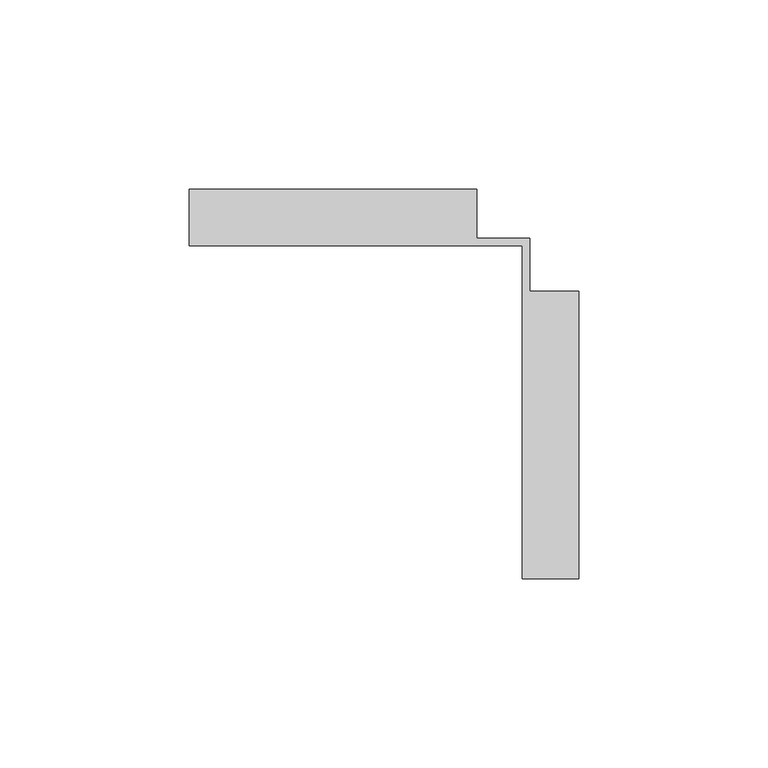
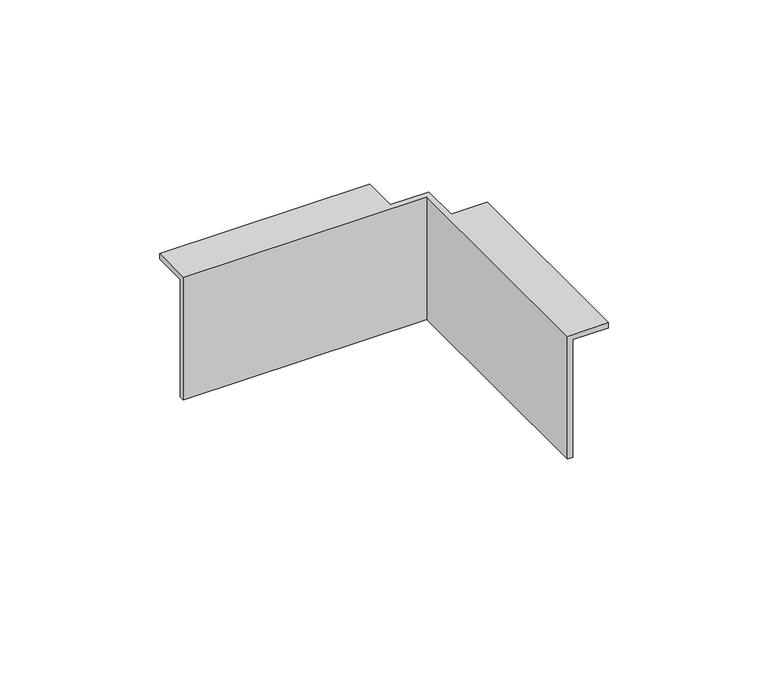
"""IFC4 building model written with IfcOpenShell, lengths in millimetres: cable carrier fitting geometry, BAKS_LD_CONN_Angle coupler bendable_LKU : LKUC_H45."""

import ifcopenshell
import ifcopenshell.guid

model = None  # the IFC model being written
_history = None  # IfcOwnerHistory: only IFC2X3 demands one
_inside = {}  # id of a spatial element -> (the spatial element, [elements in it])
_under = {}  # id of a project, library or spatial element -> (it, [spatial elements below it])
_declared = {}  # id of a project -> (the project, [libraries it declares])
_typed = {}  # id of a type object -> (the type object, [elements of that type])
_made_of = {}  # id of a material, layer set ... -> (it, [elements and type objects made of it])


def new_model(schema):
    """Start an empty IFC model of exactly this schema.

    Asked for "IFC4X3", IfcOpenShell would pick the latest addendum, in which some entities
    have other attributes; the version numbers below select the first issue.
    IFC2X3 requires an IfcOwnerHistory on every rooted entity: one is made here for all.
    """
    global model, _history
    if schema == "IFC4X3":
        model = ifcopenshell.file(schema_version=(4, 3, 0, 0))
    else:
        model = ifcopenshell.file(schema=schema)
    _inside.clear()
    _under.clear()
    _declared.clear()
    _typed.clear()
    _made_of.clear()
    _history = None
    if model.schema == "IFC2X3":
        org = make("IfcOrganization", Name="unknown")
        user = make(
            "IfcPersonAndOrganization",
            ThePerson=make("IfcPerson", FamilyName="unknown"),
            TheOrganization=org,
        )
        app = make(
            "IfcApplication",
            ApplicationDeveloper=org,
            Version="unknown",
            ApplicationFullName="unknown",
            ApplicationIdentifier="unknown",
        )
        _history = make(
            "IfcOwnerHistory",
            OwningUser=user,
            OwningApplication=app,
            ChangeAction="ADDED",
            CreationDate=0,
        )
    return model


def make(cls, **values):
    """One entity of the class cls with the attributes given. An attribute that is None is left unset."""
    return model.create_entity(
        cls, **{name: value for name, value in values.items() if value is not None}
    )


def rooted(cls, **values):
    """An entity with a GlobalId (a new one), such as an element, a storey or a relation."""
    return make(cls, GlobalId=ifcopenshell.guid.new(), OwnerHistory=_history, **values)


def si_unit(unit_type, name, prefix=None):
    """IfcSIUnit, for example si_unit("LENGTHUNIT", "METRE", prefix="MILLI")."""
    return make("IfcSIUnit", UnitType=unit_type, Prefix=prefix, Name=name)


def assignment(units):
    """IfcUnitAssignment: the units of a project."""
    return None if units is None else make("IfcUnitAssignment", Units=units)


def point(xyz):
    """IfcCartesianPoint."""
    return None if xyz is None else make("IfcCartesianPoint", Coordinates=xyz)


def direction(xyz):
    """IfcDirection."""
    return None if xyz is None else make("IfcDirection", DirectionRatios=xyz)


def frame(location, z_axis=None, x_axis=None):
    """IfcAxis2Placement3D, a coordinate frame: its origin and axes. An axis left out is left unset."""
    return make(
        "IfcAxis2Placement3D",
        Location=point(location),
        Axis=direction(z_axis),
        RefDirection=direction(x_axis),
    )


def origin():
    """The frame at (0, 0, 0) with its axes left unset."""
    return frame((0.0, 0.0, 0.0))


def place(relative_to, where):
    """IfcLocalPlacement: puts the frame where relative to a parent placement (None: the world)."""
    return make(
        "IfcLocalPlacement", PlacementRelTo=relative_to, RelativePlacement=where
    )


def context(
    kind, dimensions, precision=None, world=None, true_north=None, identifier=None
):
    """IfcGeometricRepresentationContext, for example the 3D "Model" context."""
    return make(
        "IfcGeometricRepresentationContext",
        ContextIdentifier=identifier,
        ContextType=kind,
        CoordinateSpaceDimension=dimensions,
        Precision=precision,
        WorldCoordinateSystem=world,
        TrueNorth=true_north,
    )


def project(units=None, contexts=None):
    """IfcProject with its units and contexts."""
    return rooted(
        "IfcProject",
        Name="project",
        RepresentationContexts=contexts,
        UnitsInContext=assignment(units),
    )


def spatial(cls, under=None, at=None, **own):
    """A site, building, storey or space (cls), placed at a placement, below another one or the project."""
    s = rooted(cls, ObjectPlacement=at, **own)
    if under is not None:
        _under.setdefault(under.id(), (under, []))[1].append(s)
    return s


def faces_of(points, faces, orient=None, outer=None):
    """IfcFace entities. A face is a list of loops; a loop is a list of indices into points, from 0.

    orient and outer hold one flag for each loop. By default every Orientation is true, the
    first loop of a face is its IfcFaceOuterBound and the others are IfcFaceBound.
    """
    made = []
    for i, loops in enumerate(faces):
        bounds = []
        for j, loop in enumerate(loops):
            is_outer = j == 0 if outer is None else outer[i][j]
            bounds.append(
                make(
                    "IfcFaceOuterBound" if is_outer else "IfcFaceBound",
                    Bound=make("IfcPolyLoop", Polygon=[points[k] for k in loop]),
                    Orientation=True if orient is None else orient[i][j],
                )
            )
        made.append(make("IfcFace", Bounds=bounds))
    return made


def faceted_brep(points, faces, orient=None, outer=None, voids=None):
    """IfcFacetedBrep: a solid bounded by flat faces; with voids (closed shells), ...WithVoids."""
    shared = [point(p) for p in points]
    hull = make("IfcClosedShell", CfsFaces=faces_of(shared, faces, orient, outer))
    if voids is None:
        return make("IfcFacetedBrep", Outer=hull)
    return make(
        "IfcFacetedBrepWithVoids",
        Outer=hull,
        Voids=[
            make(cls, CfsFaces=faces_of(shared, fs, o, b)) for cls, fs, o, b in voids
        ],
    )


def shape(context_of_items, identifier, shape_type, items):
    """IfcShapeRepresentation: the items that make up one representation, for example the "Body"."""
    return make(
        "IfcShapeRepresentation",
        ContextOfItems=context_of_items,
        RepresentationIdentifier=identifier,
        RepresentationType=shape_type,
        Items=items,
    )


def source(mapping_origin, context_of_items, identifier, shape_type, items):
    """IfcRepresentationMap: a shape defined once, which mapped items show again and again."""
    return make(
        "IfcRepresentationMap",
        MappingOrigin=mapping_origin,
        MappedRepresentation=shape(context_of_items, identifier, shape_type, items),
    )


def transform(
    local_origin,
    x_axis=None,
    y_axis=None,
    z_axis=None,
    scale=None,
    scale2=None,
    scale3=None,
    uniform=True,
):
    """IfcCartesianTransformationOperator3D, or its non-uniform kind. x_axis, y_axis, z_axis: its Axis1, 2, 3."""
    if uniform:
        return make(
            "IfcCartesianTransformationOperator3D",
            Axis1=direction(x_axis),
            Axis2=direction(y_axis),
            LocalOrigin=point(local_origin),
            Scale=scale,
            Axis3=direction(z_axis),
        )
    return make(
        "IfcCartesianTransformationOperator3DnonUniform",
        Axis1=direction(x_axis),
        Axis2=direction(y_axis),
        LocalOrigin=point(local_origin),
        Scale=scale,
        Axis3=direction(z_axis),
        Scale2=scale2,
        Scale3=scale3,
    )


def mapped(mapping_source, mapping_target):
    """IfcMappedItem: shows the shape of a source again, moved by a transform."""
    return make(
        "IfcMappedItem", MappingSource=mapping_source, MappingTarget=mapping_target
    )


def made_of(thing, what):
    """Note that an element or type object is made of a material, layer set ...; save() writes the relation."""
    if what is not None:
        _made_of.setdefault(what.id(), (what, []))[1].append(thing)
    return thing


def element(
    cls,
    number,
    at=None,
    inside=None,
    cuts=None,
    type_object=None,
    material=None,
    context=None,
    identifier="Body",
    shape_type=None,
    held_by="IfcProductDefinitionShape",
    body=None,
    shapes=None,
    **own,
):
    """One element of the class cls, such as IfcWall. Its Tag is "e" and its number.

    at: its placement. inside: the storey or other place that contains it. cuts: it is an
    opening in that element (IfcRelVoidsElement). A single representation is given by context,
    identifier, shape_type and body (its items); several are given by shapes. held_by: the class
    of the entity that holds the representations. save() writes the other relations.
    """
    e = rooted(cls, Tag="e%d" % number, ObjectPlacement=at, **own)
    if body is not None:
        shapes = [shape(context, identifier, shape_type, body)]
    if shapes is not None:
        e.Representation = make(held_by, Representations=shapes)
    if inside is not None:
        _inside.setdefault(inside.id(), (inside, []))[1].append(e)
    if cuts is not None:
        rooted(
            "IfcRelVoidsElement", RelatingBuildingElement=cuts, RelatedOpeningElement=e
        )
    if type_object is not None:
        _typed.setdefault(type_object.id(), (type_object, []))[1].append(e)
    return made_of(e, material)


def aggregate(whole, parts):
    """IfcRelAggregates: a whole, such as a stair, and the parts it consists of."""
    return rooted("IfcRelAggregates", RelatingObject=whole, RelatedObjects=parts)


def save(model, path):
    """Write the relations noted so far, then the file.

    IfcRelAggregates (storeys below a building ...), IfcRelContainedInSpatialStructure (elements
    in a storey), IfcRelDefinesByType, IfcRelAssociatesMaterial and IfcRelDeclares: one each for
    every whole, place, type object, material and project.
    """
    for whole, parts in _under.values():
        aggregate(whole, parts)
    for where, things in _inside.values():
        rooted(
            "IfcRelContainedInSpatialStructure",
            RelatedElements=things,
            RelatingStructure=where,
        )
    for kind, things in _typed.values():
        rooted("IfcRelDefinesByType", RelatedObjects=things, RelatingType=kind)
    for what, things in _made_of.values():
        rooted("IfcRelAssociatesMaterial", RelatedObjects=things, RelatingMaterial=what)
    for by, libraries in _declared.values():
        rooted("IfcRelDeclares", RelatingContext=by, RelatedDefinitions=libraries)
    model.write(path)


def cable_carrier_fitting_655502a1(model_context):
    return source(origin(), model_context, "Body", "Brep", [
        faceted_brep([(-90.0, 0.0, 45.0), (-90.0, 0.0, 0.0), (-90.0, -2.0, 0.0), (-90.0, -2.0, 47.0), (-90.0, 13.0, 47.0), (-90.0, 13.0, 45.0), (-14.0, 0.0, 45.0), (-14.0, 0.0, 47.0), (0.0, 0.0, 47.0), (0.0, 0.0, 0.0), (0.0, -90.0, 0.0), (-2.0, -90.0, 0.0), (-2.0, -2.0, 0.0), (-2.0, -2.0, 47.0), (-14.0, 13.0, 45.0), (13.0, -90.0, 45.0), (0.0, -90.0, 45.0), (0.0, -14.0, 45.0), (13.0, -14.0, 45.0), (-14.0, 13.0, 47.0), (-2.0, -90.0, 47.0), (13.0, -90.0, 47.0), (13.0, -14.0, 47.0), (0.0, -14.0, 47.0)], [[[0, 1, 2, 3, 4, 5]], [[1, 0, 6, 7, 8, 9]], [[2, 1, 9, 10, 11, 12]], [[3, 2, 12, 13]], [[0, 5, 14, 6]], [[15, 16, 17, 18]], [[5, 4, 19, 14]], [[4, 3, 13, 20, 21, 22, 23, 8, 7, 19]], [[11, 10, 16, 15, 21, 20]], [[9, 8, 23, 17, 16, 10]], [[12, 11, 20, 13]], [[21, 15, 18, 22]], [[17, 23, 22, 18]], [[7, 6, 14, 19]]]),
    ])


if __name__ == "__main__":
    model = new_model("IFC4")
    model_context = context("Model", 3, world=origin())
    ifc_project = project(units=[si_unit("LENGTHUNIT", "METRE", prefix="MILLI")], contexts=[model_context])
    site = spatial("IfcSite", under=ifc_project)
    building = spatial("IfcBuilding", under=site)
    placement = place(None, origin())
    cable_carrier_fitting_shape = cable_carrier_fitting_655502a1(model_context)
    element("IfcCableCarrierFitting", 1, ObjectType="BAKS_LD_CONN_Angle coupler bendable_LKU : LKUC_H45", at=placement, inside=building, context=model_context, shape_type="MappedRepresentation", body=[
        mapped(cable_carrier_fitting_shape, transform((0.0, 0.0, 0.0), x_axis=(1.0, 0.0, 0.0), y_axis=(0.0, 1.0, 0.0), z_axis=(0.0, 0.0, 1.0))),
    ])
    save(model, "model.ifc")
